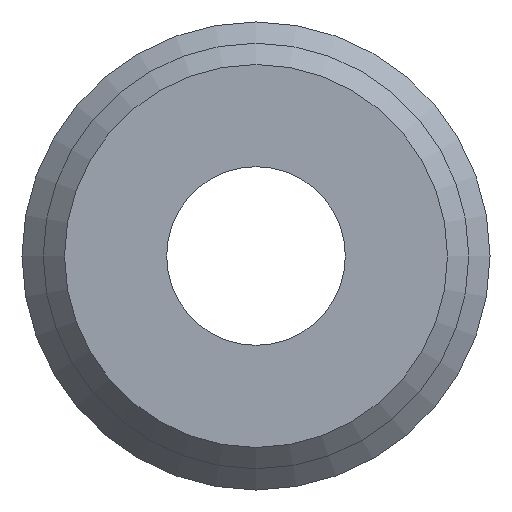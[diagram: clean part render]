
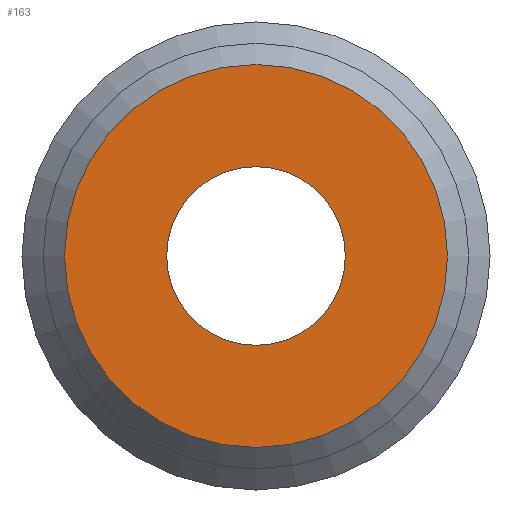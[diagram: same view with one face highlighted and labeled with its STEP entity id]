
A CAD part, front view. The second image highlights one B-rep face of the part: STEP entity #163.
In plain terms, the highlighted planar face has unit normal (0, -1, 0).
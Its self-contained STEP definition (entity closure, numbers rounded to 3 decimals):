
#121=CARTESIAN_POINT('',(-4.5,0.,0.));
#122=VERTEX_POINT('',#121);
#123=CARTESIAN_POINT('',(0.0,0.,0.0));
#124=DIRECTION('',(0.0,1.0,0.0));
#125=DIRECTION('',(1.0,0.0,0.0));
#126=AXIS2_PLACEMENT_3D('',#123,#124,#125);
#127=CIRCLE('',#126,4.5);
#128=EDGE_CURVE('',#122,#122,#127,.T.);
#144=CARTESIAN_POINT('',(-3.55,0.,0.0));
#145=DIRECTION('',(0.0,-1.0,0.0));
#146=DIRECTION('',(0.0,0.0,-1.0));
#147=AXIS2_PLACEMENT_3D('',#144,#145,#146);
#148=PLANE('',#147);
#149=ORIENTED_EDGE('',*,*,#128,.F.);
#150=EDGE_LOOP('',(#149));
#151=FACE_OUTER_BOUND('',#150,.T.);
#152=CARTESIAN_POINT('',(-2.1,0.,0.0));
#153=VERTEX_POINT('',#152);
#154=CARTESIAN_POINT('',(0.0,0.,0.0));
#155=DIRECTION('',(0.0,1.0,0.0));
#156=DIRECTION('',(-1.0,0.0,0.0));
#157=AXIS2_PLACEMENT_3D('',#154,#155,#156);
#158=CIRCLE('',#157,2.1);
#159=EDGE_CURVE('',#153,#153,#158,.T.);
#160=ORIENTED_EDGE('',*,*,#159,.T.);
#161=EDGE_LOOP('',(#160));
#162=FACE_BOUND('',#161,.T.);
#163=ADVANCED_FACE('',(#151,#162),#148,.T.);
